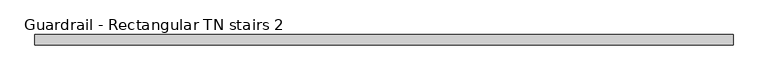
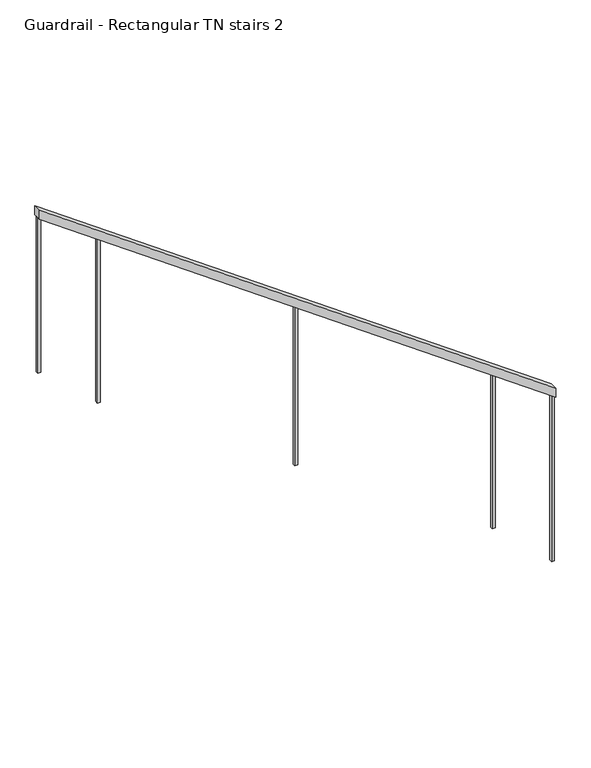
"""IFC4 building model written with IfcOpenShell, lengths in millimetres: railing geometry, Guardrail - Rectangular TN stairs 2."""

import ifcopenshell
import ifcopenshell.guid

model = None  # the IFC model being written
_history = None  # IfcOwnerHistory: only IFC2X3 demands one
_inside = {}  # id of a spatial element -> (the spatial element, [elements in it])
_under = {}  # id of a project, library or spatial element -> (it, [spatial elements below it])
_declared = {}  # id of a project -> (the project, [libraries it declares])
_typed = {}  # id of a type object -> (the type object, [elements of that type])
_made_of = {}  # id of a material, layer set ... -> (it, [elements and type objects made of it])


def new_model(schema):
    """Start an empty IFC model of exactly this schema.

    Asked for "IFC4X3", IfcOpenShell would pick the latest addendum, in which some entities
    have other attributes; the version numbers below select the first issue.
    IFC2X3 requires an IfcOwnerHistory on every rooted entity: one is made here for all.
    """
    global model, _history
    if schema == "IFC4X3":
        model = ifcopenshell.file(schema_version=(4, 3, 0, 0))
    else:
        model = ifcopenshell.file(schema=schema)
    _inside.clear()
    _under.clear()
    _declared.clear()
    _typed.clear()
    _made_of.clear()
    _history = None
    if model.schema == "IFC2X3":
        org = make("IfcOrganization", Name="unknown")
        user = make(
            "IfcPersonAndOrganization",
            ThePerson=make("IfcPerson", FamilyName="unknown"),
            TheOrganization=org,
        )
        app = make(
            "IfcApplication",
            ApplicationDeveloper=org,
            Version="unknown",
            ApplicationFullName="unknown",
            ApplicationIdentifier="unknown",
        )
        _history = make(
            "IfcOwnerHistory",
            OwningUser=user,
            OwningApplication=app,
            ChangeAction="ADDED",
            CreationDate=0,
        )
    return model


def make(cls, **values):
    """One entity of the class cls with the attributes given. An attribute that is None is left unset."""
    return model.create_entity(
        cls, **{name: value for name, value in values.items() if value is not None}
    )


def rooted(cls, **values):
    """An entity with a GlobalId (a new one), such as an element, a storey or a relation."""
    return make(cls, GlobalId=ifcopenshell.guid.new(), OwnerHistory=_history, **values)


def si_unit(unit_type, name, prefix=None):
    """IfcSIUnit, for example si_unit("LENGTHUNIT", "METRE", prefix="MILLI")."""
    return make("IfcSIUnit", UnitType=unit_type, Prefix=prefix, Name=name)


def assignment(units):
    """IfcUnitAssignment: the units of a project."""
    return None if units is None else make("IfcUnitAssignment", Units=units)


def point(xyz):
    """IfcCartesianPoint."""
    return None if xyz is None else make("IfcCartesianPoint", Coordinates=xyz)


def direction(xyz):
    """IfcDirection."""
    return None if xyz is None else make("IfcDirection", DirectionRatios=xyz)


def frame(location, z_axis=None, x_axis=None):
    """IfcAxis2Placement3D, a coordinate frame: its origin and axes. An axis left out is left unset."""
    return make(
        "IfcAxis2Placement3D",
        Location=point(location),
        Axis=direction(z_axis),
        RefDirection=direction(x_axis),
    )


def origin():
    """The frame at (0, 0, 0) with its axes left unset."""
    return frame((0.0, 0.0, 0.0))


def place(relative_to, where):
    """IfcLocalPlacement: puts the frame where relative to a parent placement (None: the world)."""
    return make(
        "IfcLocalPlacement", PlacementRelTo=relative_to, RelativePlacement=where
    )


def context(
    kind, dimensions, precision=None, world=None, true_north=None, identifier=None
):
    """IfcGeometricRepresentationContext, for example the 3D "Model" context."""
    return make(
        "IfcGeometricRepresentationContext",
        ContextIdentifier=identifier,
        ContextType=kind,
        CoordinateSpaceDimension=dimensions,
        Precision=precision,
        WorldCoordinateSystem=world,
        TrueNorth=true_north,
    )


def project(units=None, contexts=None):
    """IfcProject with its units and contexts."""
    return rooted(
        "IfcProject",
        Name="project",
        RepresentationContexts=contexts,
        UnitsInContext=assignment(units),
    )


def spatial(cls, under=None, at=None, **own):
    """A site, building, storey or space (cls), placed at a placement, below another one or the project."""
    s = rooted(cls, ObjectPlacement=at, **own)
    if under is not None:
        _under.setdefault(under.id(), (under, []))[1].append(s)
    return s


def polyline(points):
    """IfcPolyline through the points."""
    return make("IfcPolyline", Points=[point(p) for p in points])


def outline(outer, holes=None, kind="AREA"):
    """IfcArbitraryClosedProfileDef: a profile drawn as a closed curve; with holes, ...WithVoids."""
    if holes is None:
        return make("IfcArbitraryClosedProfileDef", ProfileType=kind, OuterCurve=outer)
    return make(
        "IfcArbitraryProfileDefWithVoids",
        ProfileType=kind,
        OuterCurve=outer,
        InnerCurves=holes,
    )


def extrude(swept, where, along, depth):
    """IfcExtrudedAreaSolid: the profile swept, set in the frame where, extruded along a direction by depth."""
    return make(
        "IfcExtrudedAreaSolid",
        SweptArea=swept,
        Position=where,
        ExtrudedDirection=direction(along),
        Depth=depth,
    )


def shape(context_of_items, identifier, shape_type, items):
    """IfcShapeRepresentation: the items that make up one representation, for example the "Body"."""
    return make(
        "IfcShapeRepresentation",
        ContextOfItems=context_of_items,
        RepresentationIdentifier=identifier,
        RepresentationType=shape_type,
        Items=items,
    )


def source(mapping_origin, context_of_items, identifier, shape_type, items):
    """IfcRepresentationMap: a shape defined once, which mapped items show again and again."""
    return make(
        "IfcRepresentationMap",
        MappingOrigin=mapping_origin,
        MappedRepresentation=shape(context_of_items, identifier, shape_type, items),
    )


def transform(
    local_origin,
    x_axis=None,
    y_axis=None,
    z_axis=None,
    scale=None,
    scale2=None,
    scale3=None,
    uniform=True,
):
    """IfcCartesianTransformationOperator3D, or its non-uniform kind. x_axis, y_axis, z_axis: its Axis1, 2, 3."""
    if uniform:
        return make(
            "IfcCartesianTransformationOperator3D",
            Axis1=direction(x_axis),
            Axis2=direction(y_axis),
            LocalOrigin=point(local_origin),
            Scale=scale,
            Axis3=direction(z_axis),
        )
    return make(
        "IfcCartesianTransformationOperator3DnonUniform",
        Axis1=direction(x_axis),
        Axis2=direction(y_axis),
        LocalOrigin=point(local_origin),
        Scale=scale,
        Axis3=direction(z_axis),
        Scale2=scale2,
        Scale3=scale3,
    )


def mapped(mapping_source, mapping_target):
    """IfcMappedItem: shows the shape of a source again, moved by a transform."""
    return make(
        "IfcMappedItem", MappingSource=mapping_source, MappingTarget=mapping_target
    )


def made_of(thing, what):
    """Note that an element or type object is made of a material, layer set ...; save() writes the relation."""
    if what is not None:
        _made_of.setdefault(what.id(), (what, []))[1].append(thing)
    return thing


def element(
    cls,
    number,
    at=None,
    inside=None,
    cuts=None,
    type_object=None,
    material=None,
    context=None,
    identifier="Body",
    shape_type=None,
    held_by="IfcProductDefinitionShape",
    body=None,
    shapes=None,
    **own,
):
    """One element of the class cls, such as IfcWall. Its Tag is "e" and its number.

    at: its placement. inside: the storey or other place that contains it. cuts: it is an
    opening in that element (IfcRelVoidsElement). A single representation is given by context,
    identifier, shape_type and body (its items); several are given by shapes. held_by: the class
    of the entity that holds the representations. save() writes the other relations.
    """
    e = rooted(cls, Tag="e%d" % number, ObjectPlacement=at, **own)
    if body is not None:
        shapes = [shape(context, identifier, shape_type, body)]
    if shapes is not None:
        e.Representation = make(held_by, Representations=shapes)
    if inside is not None:
        _inside.setdefault(inside.id(), (inside, []))[1].append(e)
    if cuts is not None:
        rooted(
            "IfcRelVoidsElement", RelatingBuildingElement=cuts, RelatedOpeningElement=e
        )
    if type_object is not None:
        _typed.setdefault(type_object.id(), (type_object, []))[1].append(e)
    return made_of(e, material)


def aggregate(whole, parts):
    """IfcRelAggregates: a whole, such as a stair, and the parts it consists of."""
    return rooted("IfcRelAggregates", RelatingObject=whole, RelatedObjects=parts)


def save(model, path):
    """Write the relations noted so far, then the file.

    IfcRelAggregates (storeys below a building ...), IfcRelContainedInSpatialStructure (elements
    in a storey), IfcRelDefinesByType, IfcRelAssociatesMaterial and IfcRelDeclares: one each for
    every whole, place, type object, material and project.
    """
    for whole, parts in _under.values():
        aggregate(whole, parts)
    for where, things in _inside.values():
        rooted(
            "IfcRelContainedInSpatialStructure",
            RelatedElements=things,
            RelatingStructure=where,
        )
    for kind, things in _typed.values():
        rooted("IfcRelDefinesByType", RelatedObjects=things, RelatingType=kind)
    for what, things in _made_of.values():
        rooted("IfcRelAssociatesMaterial", RelatedObjects=things, RelatingMaterial=what)
    for by, libraries in _declared.values():
        rooted("IfcRelDeclares", RelatingContext=by, RelatedDefinitions=libraries)
    model.write(path)


def guardrail_rectangular_tn_stairs_2_3a758dc5(model_context):
    return source(origin(), model_context, "Body", "SweptSolid", [
        extrude(outline(polyline([(6230.3655566, -4562.7157069), (6167.9372533, -4562.7157069), (3739.3658247, -1162.7157069), (3801.794128, -1162.7157069), (6230.3655566, -4562.7157069)])), frame((0.0, -13907.6966791, 0.0), z_axis=(0.0, 1.0, 0.0), x_axis=(0.0, 0.0, 1.0)), (0.0, 0.0, 1.0), 50.8),
        extrude(outline(polyline([(4018.276539, -1553.1907069), (4031.8836818, -1572.2407069), (2957.1428571, -1572.2407069), (2957.1428571, -1553.1907069), (4018.276539, -1553.1907069)])), frame((0.0, -13891.8216791, 0.0), z_axis=(0.0, 1.0, 0.0), x_axis=(0.0, 0.0, 1.0)), (0.0, 0.0, 1.0), 19.05),
        extrude(outline(polyline([(4946.8479675, -2853.1907069), (4960.4551104, -2872.2407069), (3850.0, -2872.2407069), (3850.0, -2853.1907069), (4946.8479675, -2853.1907069)])), frame((0.0, -13891.8216791, 0.0), z_axis=(0.0, 1.0, 0.0), x_axis=(0.0, 0.0, 1.0)), (0.0, 0.0, 1.0), 19.05),
        extrude(outline(polyline([(5875.4193961, -4153.1907069), (5889.026539, -4172.2407069), (4742.8571429, -4172.2407069), (4742.8571429, -4153.1907069), (5875.4193961, -4153.1907069)])), frame((0.0, -13891.8216791, 0.0), z_axis=(0.0, 1.0, 0.0), x_axis=(0.0, 0.0, 1.0)), (0.0, 0.0, 1.0), 19.05),
        extrude(outline(polyline([(3739.3479675, -1162.6907069), (3752.9551104, -1181.7407069), (2591.7798423, -1181.7407069), (2591.7798423, -1162.6907069), (3739.3479675, -1162.6907069)])), frame((0.0, -13891.8216791, 0.0), z_axis=(0.0, 1.0, 0.0), x_axis=(0.0, 0.0, 1.0)), (0.0, 0.0, 1.0), 19.05),
        extrude(outline(polyline([(6154.3479675, -4543.6907069), (6167.9551104, -4562.7407069), (5086.7798423, -4562.7407069), (5086.7798423, -4543.6907069), (6154.3479675, -4543.6907069)])), frame((0.0, -13891.8216791, 0.0), z_axis=(0.0, 1.0, 0.0), x_axis=(0.0, 0.0, 1.0)), (0.0, 0.0, 1.0), 19.05),
    ])


if __name__ == "__main__":
    model = new_model("IFC4")
    model_context = context("Model", 3, world=origin())
    ifc_project = project(units=[si_unit("LENGTHUNIT", "METRE", prefix="MILLI")], contexts=[model_context])
    site = spatial("IfcSite", under=ifc_project)
    building = spatial("IfcBuilding", under=site)
    placement = place(None, origin())
    guardrail_rectangular_tn_stairs_2_shape = guardrail_rectangular_tn_stairs_2_3a758dc5(model_context)
    element("IfcRailing", 1, ObjectType="Guardrail - Rectangular TN stairs 2", at=placement, inside=building, context=model_context, shape_type="MappedRepresentation", body=[
        mapped(guardrail_rectangular_tn_stairs_2_shape, transform((0.0, 0.0, 0.0), x_axis=(1.0, 0.0, 0.0), y_axis=(0.0, 1.0, 0.0), z_axis=(0.0, 0.0, 1.0))),
    ])
    save(model, "model.ifc")
